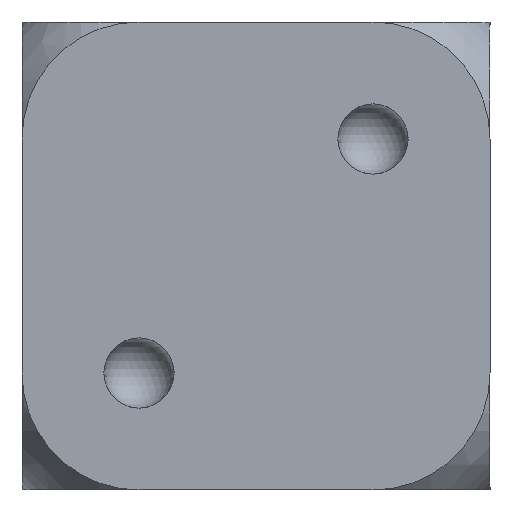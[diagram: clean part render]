
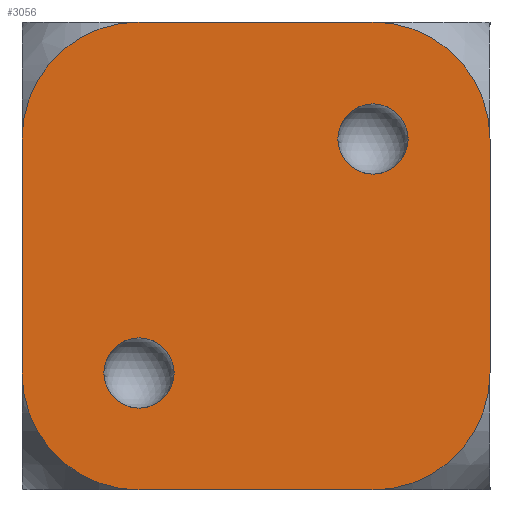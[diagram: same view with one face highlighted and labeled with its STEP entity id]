
A CAD part, left-side view. The second image highlights one B-rep face of the part: STEP entity #3056.
In plain terms, the highlighted planar face has unit normal (-1, 0, 0).
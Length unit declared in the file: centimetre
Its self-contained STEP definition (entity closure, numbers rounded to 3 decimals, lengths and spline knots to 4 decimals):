
#2290=VERTEX_POINT('',#6626);
#2291=VERTEX_POINT('',#6629);
#2297=VERTEX_POINT('',#6643);
#2298=VERTEX_POINT('',#6645);
#2299=VERTEX_POINT('',#6649);
#2300=VERTEX_POINT('',#6650);
#2308=VERTEX_POINT('',#6670);
#2310=VERTEX_POINT('',#6673);
#2312=VERTEX_POINT('',#6678);
#2313=VERTEX_POINT('',#6680);
#2394=EDGE_CURVE('',#2290,#2290,#3762,.T.);
#2395=EDGE_CURVE('',#2291,#2291,#3763,.T.);
#2402=EDGE_CURVE('',#2297,#2298,#3770,.T.);
#2403=EDGE_CURVE('',#2299,#2300,#3771,.T.);
#2413=EDGE_CURVE('',#2310,#2308,#3781,.T.);
#2417=EDGE_CURVE('',#2312,#2313,#3785,.T.);
#2423=EDGE_CURVE('',#2298,#2299,#3394,.T.);
#2427=EDGE_CURVE('',#2310,#2300,#3398,.T.);
#2430=EDGE_CURVE('',#2313,#2297,#3401,.T.);
#2432=EDGE_CURVE('',#2308,#2312,#3403,.T.);
#2607=ORIENTED_EDGE('',*,*,#2394,.T.);
#2608=ORIENTED_EDGE('',*,*,#2395,.T.);
#2609=ORIENTED_EDGE('',*,*,#2402,.T.);
#2610=ORIENTED_EDGE('',*,*,#2423,.T.);
#2611=ORIENTED_EDGE('',*,*,#2403,.T.);
#2612=ORIENTED_EDGE('',*,*,#2427,.F.);
#2613=ORIENTED_EDGE('',*,*,#2413,.T.);
#2614=ORIENTED_EDGE('',*,*,#2432,.T.);
#2615=ORIENTED_EDGE('',*,*,#2417,.T.);
#2616=ORIENTED_EDGE('',*,*,#2430,.T.);
#2811=EDGE_LOOP('',(#2607));
#2812=EDGE_LOOP('',(#2608));
#2813=EDGE_LOOP('',(#2609,#2610,#2611,#2612,#2613,#2614,#2615,#2616));
#2943=FACE_BOUND('',#2811,.T.);
#2944=FACE_BOUND('',#2812,.T.);
#2945=FACE_BOUND('',#2813,.T.);
#3056=ADVANCED_FACE('',(#2943,#2944,#2945),#5157,.T.);
#3394=LINE('',#6692,#5112);
#3398=LINE('',#6697,#5116);
#3401=LINE('',#6702,#5119);
#3403=LINE('',#6705,#5121);
#3762=CIRCLE('',#4849,3.);
#3763=CIRCLE('',#4851,3.);
#3770=CIRCLE('',#4861,10.);
#3771=CIRCLE('',#4863,10.);
#3781=CIRCLE('',#4876,10.);
#3785=CIRCLE('',#4881,10.);
#4849=AXIS2_PLACEMENT_3D('',#6625,#5807,#5808);
#4851=AXIS2_PLACEMENT_3D('',#6628,#5811,#5812);
#4861=AXIS2_PLACEMENT_3D('',#6646,#5831,#5832);
#4863=AXIS2_PLACEMENT_3D('',#6648,#5835,#5836);
#4876=AXIS2_PLACEMENT_3D('',#6672,#5861,#5862);
#4881=AXIS2_PLACEMENT_3D('',#6681,#5871,#5872);
#4890=AXIS2_PLACEMENT_3D('',#6704,#5896,$);
#5112=VECTOR('',#5884,1.);
#5116=VECTOR('',#5889,1.);
#5119=VECTOR('',#5894,1.);
#5121=VECTOR('',#5897,1.);
#5157=PLANE('',#4890);
#5807=DIRECTION('',(1.,0.,0.));
#5808=DIRECTION('',(0.,0.,-3.));
#5811=DIRECTION('',(1.,0.,0.));
#5812=DIRECTION('',(0.,0.,-3.));
#5831=DIRECTION('',(-1.,0.,0.));
#5832=DIRECTION('',(0.,0.,-10.));
#5835=DIRECTION('',(-1.,0.,0.));
#5836=DIRECTION('',(0.,0.,-10.));
#5861=DIRECTION('',(-1.,0.,0.));
#5862=DIRECTION('',(0.,0.,-10.));
#5871=DIRECTION('',(-1.,0.,0.));
#5872=DIRECTION('',(0.,0.,-10.));
#5884=DIRECTION('',(0.,1.,0.));
#5889=DIRECTION('',(0.,0.,1.));
#5894=DIRECTION('',(0.,0.,1.));
#5896=DIRECTION('',(-1.,0.,0.));
#5897=DIRECTION('',(0.,-1.,0.));
#6625=CARTESIAN_POINT('',(-20.,-10.,30.));
#6626=CARTESIAN_POINT('',(-20.,-10.,33.));
#6628=CARTESIAN_POINT('',(-20.,10.,10.));
#6629=CARTESIAN_POINT('',(-20.,10.,13.));
#6643=CARTESIAN_POINT('',(-20.,-20.,30.));
#6645=CARTESIAN_POINT('',(-20.,-10.,40.));
#6646=CARTESIAN_POINT('',(-20.,-10.,30.));
#6648=CARTESIAN_POINT('',(-20.,10.,30.));
#6649=CARTESIAN_POINT('',(-20.,10.,40.));
#6650=CARTESIAN_POINT('',(-20.,20.,30.));
#6670=CARTESIAN_POINT('',(-20.,10.,0.));
#6672=CARTESIAN_POINT('',(-20.,10.,10.));
#6673=CARTESIAN_POINT('',(-20.,20.,10.));
#6678=CARTESIAN_POINT('',(-20.,-10.,0.));
#6680=CARTESIAN_POINT('',(-20.,-20.,10.));
#6681=CARTESIAN_POINT('',(-20.,-10.,10.));
#6692=CARTESIAN_POINT('',(-20.,20.,40.));
#6697=CARTESIAN_POINT('',(-20.,20.,0.));
#6702=CARTESIAN_POINT('',(-20.,-20.,0.));
#6704=CARTESIAN_POINT('',(-20.,0.,0.));
#6705=CARTESIAN_POINT('',(-20.,20.,0.));
